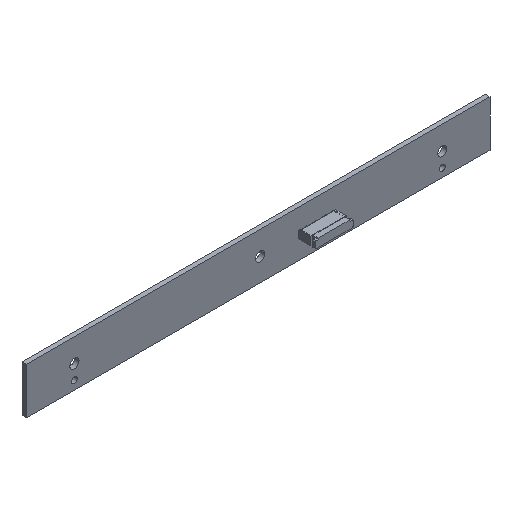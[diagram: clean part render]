
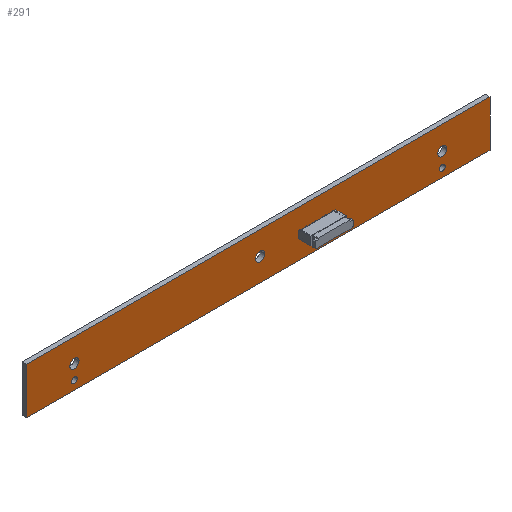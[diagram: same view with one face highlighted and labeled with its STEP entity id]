
A CAD part, isometric view. The second image highlights one B-rep face of the part: STEP entity #291.
In plain terms, the highlighted planar face has unit normal (0, -1, 0).
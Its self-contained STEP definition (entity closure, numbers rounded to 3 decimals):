
#2=DIRECTION('',(0.,0.,1.));
#3=VECTOR('',#2,16.);
#4=CARTESIAN_POINT('',(-80.,0.,-8.));
#5=LINE('',#4,#3);
#6=DIRECTION('',(1.,0.,0.));
#7=VECTOR('',#6,160.);
#8=CARTESIAN_POINT('',(-80.,0.,8.));
#9=LINE('',#8,#7);
#10=DIRECTION('',(0.,0.,-1.));
#11=VECTOR('',#10,16.);
#12=CARTESIAN_POINT('',(80.,0.,8.));
#13=LINE('',#12,#11);
#14=DIRECTION('',(-1.,0.,0.));
#15=VECTOR('',#14,160.);
#16=CARTESIAN_POINT('',(80.,0.,-8.));
#17=LINE('',#16,#15);
#18=CARTESIAN_POINT('',(-63.5,0.,0.));
#19=DIRECTION('',(0.,1.,0.));
#20=DIRECTION('',(1.,0.,0.));
#21=AXIS2_PLACEMENT_3D('',#18,#19,#20);
#23=CARTESIAN_POINT('',(-63.5,0.,0.));
#24=DIRECTION('',(0.,1.,0.));
#25=DIRECTION('',(-1.,0.,0.));
#26=AXIS2_PLACEMENT_3D('',#23,#24,#25);
#28=CARTESIAN_POINT('',(63.55,0.,0.));
#29=DIRECTION('',(0.,1.,0.));
#30=DIRECTION('',(1.,0.,0.));
#31=AXIS2_PLACEMENT_3D('',#28,#29,#30);
#33=CARTESIAN_POINT('',(63.55,0.,0.));
#34=DIRECTION('',(0.,1.,0.));
#35=DIRECTION('',(-1.,0.,0.));
#36=AXIS2_PLACEMENT_3D('',#33,#34,#35);
#38=CARTESIAN_POINT('',(63.55,0.,-5.));
#39=DIRECTION('',(0.,1.,0.));
#40=DIRECTION('',(1.,0.,0.));
#41=AXIS2_PLACEMENT_3D('',#38,#39,#40);
#43=CARTESIAN_POINT('',(63.55,0.,-5.));
#44=DIRECTION('',(0.,1.,0.));
#45=DIRECTION('',(-1.,0.,0.));
#46=AXIS2_PLACEMENT_3D('',#43,#44,#45);
#48=CARTESIAN_POINT('',(-63.5,0.,-5.));
#49=DIRECTION('',(0.,1.,0.));
#50=DIRECTION('',(1.,0.,0.));
#51=AXIS2_PLACEMENT_3D('',#48,#49,#50);
#53=CARTESIAN_POINT('',(-63.5,0.,-5.));
#54=DIRECTION('',(0.,1.,0.));
#55=DIRECTION('',(-1.,0.,0.));
#56=AXIS2_PLACEMENT_3D('',#53,#54,#55);
#58=CARTESIAN_POINT('',(0.6,0.,0.));
#59=DIRECTION('',(0.,1.,0.));
#60=DIRECTION('',(1.,0.,0.));
#61=AXIS2_PLACEMENT_3D('',#58,#59,#60);
#63=CARTESIAN_POINT('',(0.6,0.,0.));
#64=DIRECTION('',(0.,1.,0.));
#65=DIRECTION('',(-1.,0.,0.));
#66=AXIS2_PLACEMENT_3D('',#63,#64,#65);
#190=CARTESIAN_POINT('',(-80.,0.,-8.));
#191=CARTESIAN_POINT('',(-80.,0.,8.));
#192=VERTEX_POINT('',#190);
#193=VERTEX_POINT('',#191);
#194=CARTESIAN_POINT('',(80.,0.,8.));
#195=VERTEX_POINT('',#194);
#196=CARTESIAN_POINT('',(80.,0.,-8.));
#197=VERTEX_POINT('',#196);
#206=CARTESIAN_POINT('',(-61.9,0.,0.));
#207=CARTESIAN_POINT('',(-65.1,0.,0.));
#208=VERTEX_POINT('',#206);
#209=VERTEX_POINT('',#207);
#210=CARTESIAN_POINT('',(65.15,0.,0.));
#211=CARTESIAN_POINT('',(61.95,0.,0.));
#212=VERTEX_POINT('',#210);
#213=VERTEX_POINT('',#211);
#222=CARTESIAN_POINT('',(64.55,0.,-5.));
#223=CARTESIAN_POINT('',(62.55,0.,-5.));
#224=VERTEX_POINT('',#222);
#225=VERTEX_POINT('',#223);
#226=CARTESIAN_POINT('',(-62.5,0.,-5.));
#227=CARTESIAN_POINT('',(-64.5,0.,-5.));
#228=VERTEX_POINT('',#226);
#229=VERTEX_POINT('',#227);
#238=CARTESIAN_POINT('',(2.2,0.,0.));
#239=CARTESIAN_POINT('',(-1.,0.,0.));
#240=VERTEX_POINT('',#238);
#241=VERTEX_POINT('',#239);
#246=CARTESIAN_POINT('',(0.,0.,0.));
#247=DIRECTION('',(0.,1.,0.));
#248=DIRECTION('',(1.,0.,0.));
#249=AXIS2_PLACEMENT_3D('',#246,#247,#248);
#250=PLANE('',#249);
#252=ORIENTED_EDGE('',*,*,#251,.T.);
#254=ORIENTED_EDGE('',*,*,#253,.T.);
#256=ORIENTED_EDGE('',*,*,#255,.T.);
#258=ORIENTED_EDGE('',*,*,#257,.T.);
#259=EDGE_LOOP('',(#252,#254,#256,#258));
#260=FACE_OUTER_BOUND('',#259,.F.);
#262=ORIENTED_EDGE('',*,*,#261,.F.);
#264=ORIENTED_EDGE('',*,*,#263,.F.);
#265=EDGE_LOOP('',(#262,#264));
#266=FACE_BOUND('',#265,.F.);
#268=ORIENTED_EDGE('',*,*,#267,.F.);
#270=ORIENTED_EDGE('',*,*,#269,.F.);
#271=EDGE_LOOP('',(#268,#270));
#272=FACE_BOUND('',#271,.F.);
#274=ORIENTED_EDGE('',*,*,#273,.F.);
#276=ORIENTED_EDGE('',*,*,#275,.F.);
#277=EDGE_LOOP('',(#274,#276));
#278=FACE_BOUND('',#277,.F.);
#280=ORIENTED_EDGE('',*,*,#279,.F.);
#282=ORIENTED_EDGE('',*,*,#281,.F.);
#283=EDGE_LOOP('',(#280,#282));
#284=FACE_BOUND('',#283,.F.);
#286=ORIENTED_EDGE('',*,*,#285,.F.);
#288=ORIENTED_EDGE('',*,*,#287,.F.);
#289=EDGE_LOOP('',(#286,#288));
#290=FACE_BOUND('',#289,.F.);
#291=ADVANCED_FACE('',(#260,#266,#272,#278,#284,#290),#250,.F.);
#22=CIRCLE('',#21,1.6);
#27=CIRCLE('',#26,1.6);
#32=CIRCLE('',#31,1.6);
#37=CIRCLE('',#36,1.6);
#42=CIRCLE('',#41,1.);
#47=CIRCLE('',#46,1.);
#52=CIRCLE('',#51,1.);
#57=CIRCLE('',#56,1.);
#62=CIRCLE('',#61,1.6);
#67=CIRCLE('',#66,1.6);
#251=EDGE_CURVE('',#192,#193,#5,.T.);
#253=EDGE_CURVE('',#193,#195,#9,.T.);
#255=EDGE_CURVE('',#195,#197,#13,.T.);
#257=EDGE_CURVE('',#197,#192,#17,.T.);
#261=EDGE_CURVE('',#208,#209,#22,.T.);
#263=EDGE_CURVE('',#209,#208,#27,.T.);
#267=EDGE_CURVE('',#212,#213,#32,.T.);
#269=EDGE_CURVE('',#213,#212,#37,.T.);
#273=EDGE_CURVE('',#224,#225,#42,.T.);
#275=EDGE_CURVE('',#225,#224,#47,.T.);
#279=EDGE_CURVE('',#228,#229,#52,.T.);
#281=EDGE_CURVE('',#229,#228,#57,.T.);
#285=EDGE_CURVE('',#240,#241,#62,.T.);
#287=EDGE_CURVE('',#241,#240,#67,.T.);
